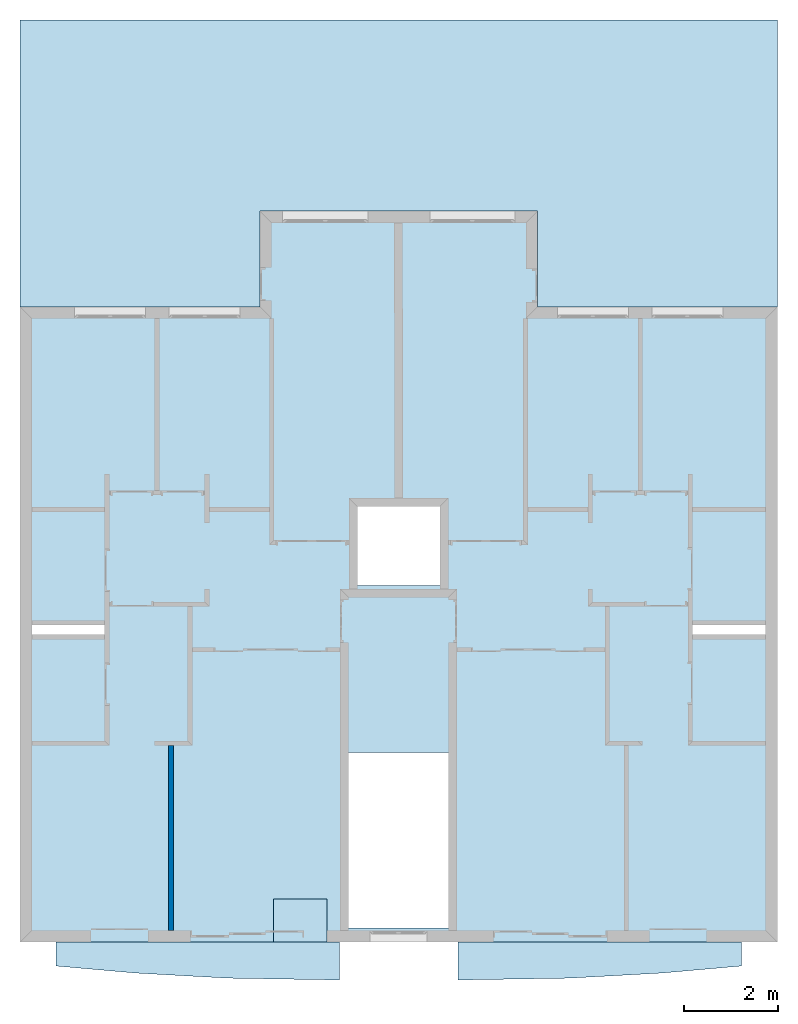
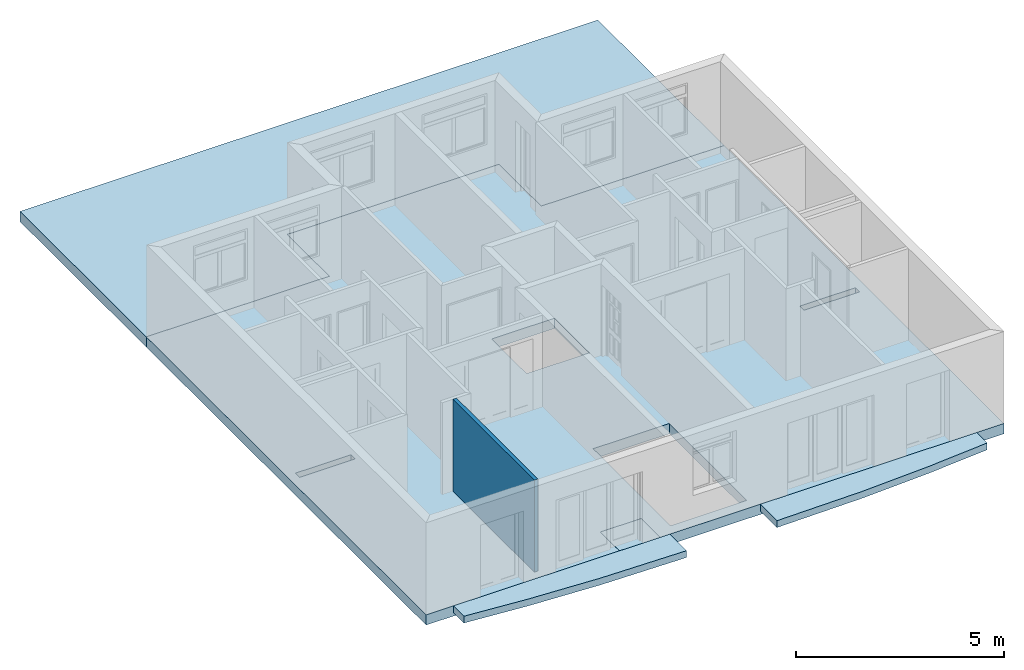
# One storey, part 1 of 12: 5 slabs, 1 wall, 4 openings.
"""IFC2X3 building model written with IfcOpenShell, lengths in metres."""

from ifc_helpers import new_model, entity, si_unit, converted_unit, direction, frame, origin_with_axes, place, context, project, spatial, polyline, outline, extrude, material, layer, layer_set, layer_usage, type_object, element, save


model = new_model("IFC2X3")

# Units and contexts
context_of_model = context(None, 3, precision=1e-05, world=origin_with_axes(), true_north=direction((6.123234e-17, 1.0)))
plan_context = context("Plan", 3, precision=1e-05, world=origin_with_axes(), true_north=direction((6.123234e-17, 1.0)))
model_context = context("Model", 3, precision=1e-05, world=origin_with_axes(), true_north=direction((6.123234e-17, 1.0)))
ifc_project = project(units=[si_unit("LENGTHUNIT", "METRE"), si_unit("AREAUNIT", "SQUARE_METRE"), si_unit("VOLUMEUNIT", "CUBIC_METRE"), converted_unit("PLANEANGLEUNIT", "DEGREE", entity("IfcPlaneAngleMeasure", 0.017453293), si_unit("PLANEANGLEUNIT", "RADIAN"), dimensions=[0, 0, 0, 0, 0, 0, 0]), si_unit("SOLIDANGLEUNIT", "STERADIAN"), si_unit("MASSUNIT", "GRAM"), si_unit("TIMEUNIT", "SECOND"), si_unit("THERMODYNAMICTEMPERATUREUNIT", "DEGREE_CELSIUS"), si_unit("LUMINOUSINTENSITYUNIT", "LUMEN")], contexts=[context_of_model, plan_context, model_context])

# Site, building, storey
site_placement = place(None, origin_with_axes())
site = spatial("IfcSite", under=ifc_project, at=site_placement, Name="Por defecto Sitio", CompositionType="ELEMENT")
building_placement = place(site_placement, origin_with_axes())
building = spatial("IfcBuilding", under=site, at=building_placement, Name="Por defecto Edificio", CompositionType="ELEMENT")
storey_placement = place(building_placement, frame((0.0, 0.0, 4.2), z_axis=(0.0, 0.0, 1.0), x_axis=(1.0, 0.0, 0.0)))
storey = spatial("IfcBuildingStorey", under=building, at=storey_placement, Name="Primera", CompositionType="ELEMENT", Elevation=4.2)

# Slabs
ifc_material_1 = material(Name="Sólido + Punto&Línea")
ifc_layer_1 = layer(ifc_material_1, 0.2, ventilated="UNKNOWN")
ifc_layer_set_1 = layer_set([ifc_layer_1], Name="Sólido + Punto&Línea")
ifc_layer_usage_1 = layer_usage(ifc_layer_set_1, "AXIS3", "NEGATIVE", 0.2)
slab_1_placement = place(storey_placement, frame((9.2712548, -2.5295321e-12, -0.2), z_axis=(0.0, 0.0, 1.0), x_axis=(6.8145947e-13, -1.0, 0.0)))
element("IfcSlab", 1, at=slab_1_placement, inside=storey, material=ifc_layer_usage_1, Name="Forj-003", PredefinedType="FLOOR", context=context_of_model, shape_type="SweptSolid", body=[
    extrude(outline(polyline([(0.0, 0.0), (0.8002553, 0.0), (0.76145598, 2.3611599), (0.65450813, 4.3000185), (0.50418985, 6.005), (1.6763188e-12, 6.005), (0.0, 0.0)])), origin_with_axes(), (0.0, 0.0, 1.0), 0.2),
])
ifc_layer_usage_2 = layer_usage(ifc_layer_set_1, "AXIS3", "NEGATIVE", 0.2)
slab_2_placement = place(storey_placement, frame((6.7629151, -2.5295321e-12, -0.2), z_axis=(0.0, 0.0, 1.0), x_axis=(-6.8145947e-13, -1.0, 0.0)))
element("IfcSlab", 2, at=slab_2_placement, inside=storey, material=ifc_layer_usage_2, Name="Forj-003", PredefinedType="FLOOR", context=context_of_model, shape_type="SweptSolid", body=[
    extrude(outline(polyline([(0.0, 0.0), (0.8002553, 0.0), (0.76145598, -2.3611599), (0.65450813, -4.3000185), (0.50418985, -6.005), (1.6763188e-12, -6.005), (0.0, 0.0)])), origin_with_axes(), (0.0, 0.0, 1.0), 0.2),
])

# Slab, openings
ifc_material_2 = material(Name="Hormigón armado")
ifc_layer_2 = layer(ifc_material_2, 0.3, ventilated="UNKNOWN")
ifc_layer_set_2 = layer_set([ifc_layer_2], Name="Hormigón armado")
ifc_layer_usage_3 = layer_usage(ifc_layer_set_2, "AXIS3", "NEGATIVE", 0.3)
slab_3_placement = place(storey_placement, frame((0.0, 13.449173, -0.3), z_axis=(0.0, 0.0, 1.0), x_axis=(0.0, -1.0, 0.0)))
slab_3 = element("IfcSlab", 3, at=slab_3_placement, inside=storey, material=ifc_layer_usage_3, Name="Forj-003", PredefinedType="FLOOR", context=context_of_model, shape_type="SweptSolid", body=[
    extrude(outline(polyline([(0.0, 0.0), (13.449172, 0.0), (13.449172, 5.3619877), (12.536263, 5.3619877), (12.536263, 6.4942053), (13.449172, 6.4942053), (13.449172, 16.03417), (0.0, 16.03417), (0.0, 10.956053), (-2.0234266, 10.956053), (-2.0234266, 5.0781165), (0.0, 5.0781165), (0.0, 0.0)])), origin_with_axes(), (0.0, 0.0, 1.0), 0.3),
])
opening_1_placement = place(slab_3_placement, origin_with_axes())
element("IfcOpeningElement", 4, at=opening_1_placement, cuts=slab_3, context=model_context, shape_type="SweptSolid", body=[
    extrude(outline(polyline([(6.9379555, 1.7901652), (6.9379555, 0.2499999), (6.7379553, 0.2499999), (6.7379553, 1.7901652), (6.9379555, 1.7901652)])), origin_with_axes(), (0.0, 0.0, 1.0), 0.3),
])
opening_2_placement = place(slab_3_placement, origin_with_axes())
element("IfcOpeningElement", 5, at=opening_2_placement, cuts=slab_3, context=model_context, shape_type="SweptSolid", body=[
    extrude(outline(polyline([(9.4291724, 6.9566602), (9.4291724, 9.0691699), (13.149173, 9.0691699), (13.149173, 6.9566602), (9.4291724, 6.9566602)])), origin_with_axes(), (0.0, 0.0, 1.0), 0.3),
])
opening_3_placement = place(slab_3_placement, origin_with_axes())
element("IfcOpeningElement", 6, at=opening_3_placement, cuts=slab_3, context=model_context, shape_type="SweptSolid", body=[
    extrude(outline(polyline([(5.9015163, 7.145), (4.2284112, 7.145), (4.2284112, 8.8849999), (5.9015163, 8.8849999), (5.9015163, 7.145)])), origin_with_axes(), (0.0, 0.0, 1.0), 0.3),
])
opening_4_placement = place(slab_3_placement, origin_with_axes())
element("IfcOpeningElement", 7, at=opening_4_placement, cuts=slab_3, context=model_context, shape_type="SweptSolid", body=[
    extrude(outline(polyline([(6.7379553, 14.239835), (6.7379553, 15.78417), (6.9379555, 15.78417), (6.9379555, 14.239835), (6.7379553, 14.239835)])), origin_with_axes(), (0.0, 0.0, 1.0), 0.3),
])

# Slabs
ifc_layer_3 = layer(ifc_material_1, 0.3, ventilated="UNKNOWN")
ifc_layer_set_3 = layer_set([ifc_layer_3], Name="Sólido + Punto&Línea")
ifc_layer_usage_4 = layer_usage(ifc_layer_set_3, "AXIS3", "NEGATIVE", 0.3)
slab_4_placement = place(storey_placement, frame((0.0, 13.449173, -0.3), z_axis=(0.0, 0.0, 1.0), x_axis=(0.0, 1.0, 0.0)))
element("IfcSlab", 8, at=slab_4_placement, inside=storey, material=ifc_layer_usage_4, Name="Forj-002", PredefinedType="FLOOR", context=context_of_model, shape_type="SweptSolid", body=[
    extrude(outline(polyline([(0.0, 0.0), (6.0708274, 0.0), (6.0708274, -16.03417), (0.0, -16.03417), (0.0, -10.956053), (2.0234265, -10.956053), (2.0234265, -5.0781164), (0.0, -5.0781164), (0.0, 0.0)])), origin_with_axes(), (0.0, 0.0, 1.0), 0.3),
])
ifc_material_3 = material(Name="Escayola")
ifc_layer_4 = layer(ifc_material_3, 0.3, ventilated="UNKNOWN")
ifc_layer_set_4 = layer_set([ifc_layer_4], Name="Escayola")
ifc_layer_usage_5 = layer_usage(ifc_layer_set_4, "AXIS3", "NEGATIVE", 0.3)
slab_5_placement = place(storey_placement, frame((5.3619877, 0.91290996, -0.3), z_axis=(0.0, 0.0, 1.0), x_axis=(1.0, 0.0, 0.0)))
element("IfcSlab", 9, at=slab_5_placement, inside=storey, material=ifc_layer_usage_5, Name="Forj-003", PredefinedType="FLOOR", context=context_of_model, shape_type="SweptSolid", body=[
    extrude(outline(polyline([(0.0, 0.0), (1.1322176, 0.0), (1.1322176, -0.91290987), (0.0, -0.91290987), (0.0, 0.0)])), origin_with_axes(), (0.0, 0.0, 1.0), 0.3),
])

# Wall
ifc_material_4 = material(Name="Ladrillo común")
ifc_layer_5 = layer(ifc_material_4, 0.1, ventilated="UNKNOWN")
ifc_layer_set_5 = layer_set([ifc_layer_5], Name="Ladrillo común")
ifc_layer_usage_6 = layer_usage(ifc_layer_set_5, "AXIS2", "POSITIVE", 0.0)
wall_type = type_object("IfcWallType", Name="Ladrillo común", PredefinedType="NOTDEFINED")
wall_placement = place(storey_placement, frame((3.245141, -1.1368684e-13, 0.0), z_axis=(0.0, 0.0, 1.0), x_axis=(0.0, 1.0, 0.0)))
element("IfcWallStandardCase", 10, at=wall_placement, inside=storey, type_object=wall_type, material=ifc_layer_usage_6, Name="Muro-019", context=context_of_model, shape_type="SweptSolid", body=[
    extrude(outline(polyline([(0.25, 0.0), (4.1588613, 0.0), (4.1588613, 0.1), (0.25, 0.1), (0.25, 0.0)])), origin_with_axes(), (0.0, 0.0, 1.0), 2.7),
])

save(model, "model.ifc")
